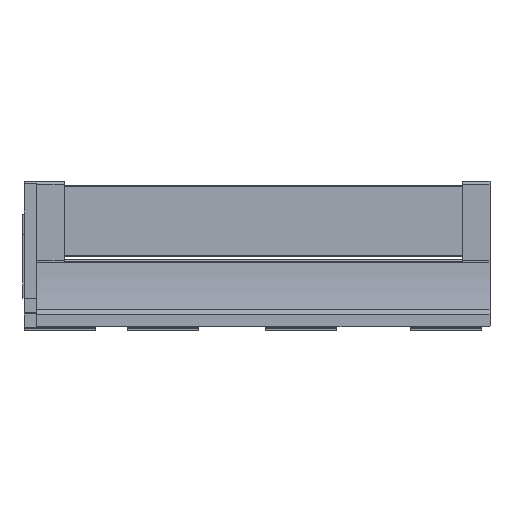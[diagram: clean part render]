
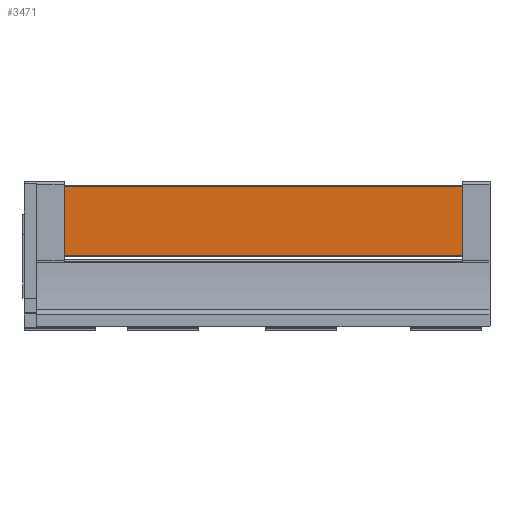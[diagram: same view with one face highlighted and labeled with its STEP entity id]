
A CAD part, left-side view. The second image highlights one B-rep face of the part: STEP entity #3471.
In plain terms, the highlighted planar face has unit normal (-1, 0, 0).
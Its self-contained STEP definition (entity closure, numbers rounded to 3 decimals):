
#574 = CARTESIAN_POINT ( 'NONE',  ( -9.6, 695., 142.798 ) ) ;
#575 = DIRECTION ( 'NONE',  ( 0., -1., 0. ) ) ;
#685 = LINE ( 'NONE', #3403, #1386 ) ;
#693 = VECTOR ( 'NONE', #3411, 1000. ) ;
#781 = VECTOR ( 'NONE', #575, 1000. ) ;
#782 = LINE ( 'NONE', #574, #781 ) ;
#1386 = VECTOR ( 'NONE', #3404, 1000. ) ;
#1476 = LINE ( 'NONE', #3395, #693 ) ;
#1523 = LINE ( 'NONE', #2901, #1524 ) ;
#1524 = VECTOR ( 'NONE', #2902, 1000. ) ;
#2506 = CARTESIAN_POINT ( 'NONE',  ( -9.6, 539.3, 55.298 ) ) ;
#2659 = CARTESIAN_POINT ( 'NONE',  ( -9.6, 35.3, 142.798 ) ) ;
#2671 = CARTESIAN_POINT ( 'NONE',  ( -9.6, 35.3, 55.298 ) ) ;
#2730 = CARTESIAN_POINT ( 'NONE',  ( -9.6, 539.3, 142.798 ) ) ;
#2901 = CARTESIAN_POINT ( 'NONE',  ( -9.6, 539.3, 142.798 ) ) ;
#2902 = DIRECTION ( 'NONE',  ( 0., 0., -1. ) ) ;
#3395 = CARTESIAN_POINT ( 'NONE',  ( -9.6, 35.3, 142.798 ) ) ;
#3403 = CARTESIAN_POINT ( 'NONE',  ( -9.6, 695., 55.298 ) ) ;
#3404 = DIRECTION ( 'NONE',  ( 0., -1., 0. ) ) ;
#3411 = DIRECTION ( 'NONE',  ( 0., 0., -1. ) ) ;
#3471 = ADVANCED_FACE ( 'NONE', ( #3891 ), #4303, .T. ) ;
#3891 = FACE_OUTER_BOUND ( 'NONE', #5555, .T. ) ;
#4013 = VERTEX_POINT ( 'NONE', #2506 ) ;
#4170 = VERTEX_POINT ( 'NONE', #2659 ) ;
#4182 = VERTEX_POINT ( 'NONE', #2671 ) ;
#4241 = VERTEX_POINT ( 'NONE', #2730 ) ;
#4303 = PLANE ( 'NONE',  #5009 ) ;
#4307 = CARTESIAN_POINT ( 'NONE',  ( -9.6, 695., 142.798 ) ) ;
#4313 = DIRECTION ( 'NONE',  ( -1., 0., 0. ) ) ;
#4314 = DIRECTION ( 'NONE',  ( 0., 0., -1. ) ) ;
#4952 = EDGE_CURVE ( 'NONE', #4241, #4013, #1523, .T. ) ;
#5009 = AXIS2_PLACEMENT_3D ( 'NONE', #4307, #4313, #4314 ) ;
#5384 = EDGE_CURVE ( 'NONE', #4013, #4182, #685, .T. ) ;
#5388 = EDGE_CURVE ( 'NONE', #4170, #4182, #1476, .T. ) ;
#5555 = EDGE_LOOP ( 'NONE', ( #5878, #5879, #5880, #5881 ) ) ;
#5878 = ORIENTED_EDGE ( 'NONE', *, *, #4952, .T. ) ;
#5879 = ORIENTED_EDGE ( 'NONE', *, *, #5384, .T. ) ;
#5880 = ORIENTED_EDGE ( 'NONE', *, *, #5388, .F. ) ;
#5881 = ORIENTED_EDGE ( 'NONE', *, *, #6151, .F. ) ;
#6151 = EDGE_CURVE ( 'NONE', #4241, #4170, #782, .T. ) ;
